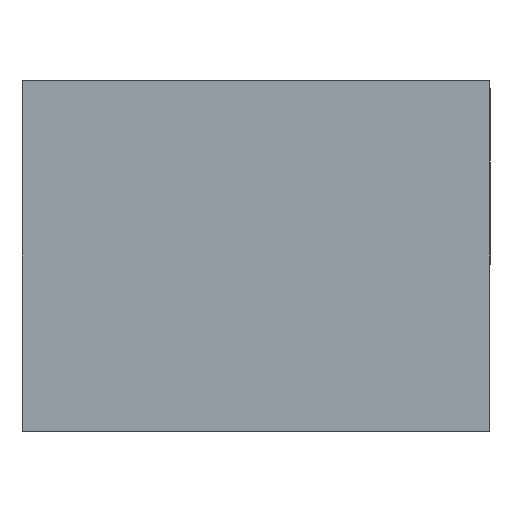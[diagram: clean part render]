
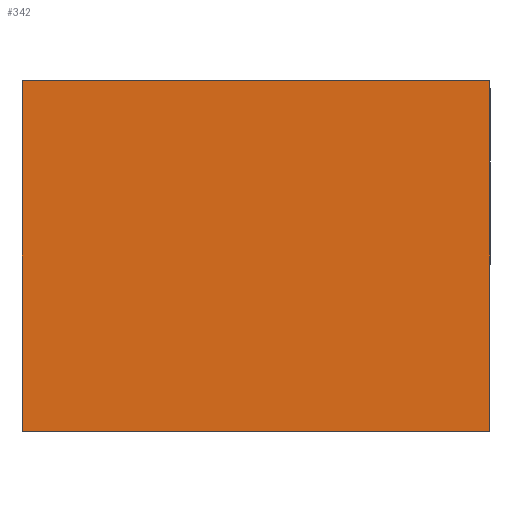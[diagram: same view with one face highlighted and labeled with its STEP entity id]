
A CAD part, front view. The second image highlights one B-rep face of the part: STEP entity #342.
In plain terms, the highlighted planar face has unit normal (0, -1, 0).
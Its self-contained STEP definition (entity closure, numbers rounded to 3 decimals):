
#34 = ORIENTED_EDGE ( 'NONE', *, *, #1111, .F. ) ;
#333 = CARTESIAN_POINT ( 'NONE',  ( -100., 0., 75. ) ) ;
#342 = ADVANCED_FACE ( 'NONE', ( #564 ), #1190, .F. ) ;
#375 = AXIS2_PLACEMENT_3D ( 'NONE', #2298, #1560, #479 ) ;
#439 = LINE ( 'NONE', #1018, #1780 ) ;
#447 = CARTESIAN_POINT ( 'NONE',  ( 100., 0., -75. ) ) ;
#479 = DIRECTION ( 'NONE',  ( 0., 0., 1. ) ) ;
#495 = EDGE_CURVE ( 'NONE', #2200, #2097, #1237, .T. ) ;
#520 = DIRECTION ( 'NONE',  ( 1., 0., 0. ) ) ;
#527 = DIRECTION ( 'NONE',  ( 0., 0., 1. ) ) ;
#564 = FACE_OUTER_BOUND ( 'NONE', #1059, .T. ) ;
#680 = ORIENTED_EDGE ( 'NONE', *, *, #1692, .F. ) ;
#698 = CARTESIAN_POINT ( 'NONE',  ( -100., 0., -75. ) ) ;
#715 = CARTESIAN_POINT ( 'NONE',  ( -100., 0., -75. ) ) ;
#765 = VECTOR ( 'NONE', #520, 1000. ) ;
#838 = ORIENTED_EDGE ( 'NONE', *, *, #495, .F. ) ;
#913 = VERTEX_POINT ( 'NONE', #447 ) ;
#921 = CARTESIAN_POINT ( 'NONE',  ( 100., 0., 75. ) ) ;
#968 = VERTEX_POINT ( 'NONE', #2293 ) ;
#983 = VECTOR ( 'NONE', #1971, 1000. ) ;
#1018 = CARTESIAN_POINT ( 'NONE',  ( 100., 0., -75. ) ) ;
#1059 = EDGE_LOOP ( 'NONE', ( #680, #838, #1881, #34 ) ) ;
#1111 = EDGE_CURVE ( 'NONE', #913, #968, #2394, .T. ) ;
#1132 = CARTESIAN_POINT ( 'NONE',  ( -100., 0., 75. ) ) ;
#1190 = PLANE ( 'NONE',  #375 ) ;
#1216 = EDGE_CURVE ( 'NONE', #968, #2200, #1341, .T. ) ;
#1237 = LINE ( 'NONE', #333, #765 ) ;
#1341 = LINE ( 'NONE', #715, #1783 ) ;
#1560 = DIRECTION ( 'NONE',  ( 0., 1., 0. ) ) ;
#1692 = EDGE_CURVE ( 'NONE', #2097, #913, #439, .T. ) ;
#1780 = VECTOR ( 'NONE', #2317, 1000. ) ;
#1783 = VECTOR ( 'NONE', #527, 1000. ) ;
#1881 = ORIENTED_EDGE ( 'NONE', *, *, #1216, .F. ) ;
#1971 = DIRECTION ( 'NONE',  ( -1., 0., 0. ) ) ;
#2097 = VERTEX_POINT ( 'NONE', #921 ) ;
#2200 = VERTEX_POINT ( 'NONE', #1132 ) ;
#2293 = CARTESIAN_POINT ( 'NONE',  ( -100., 0., -75. ) ) ;
#2298 = CARTESIAN_POINT ( 'NONE',  ( 0., 0., 0. ) ) ;
#2317 = DIRECTION ( 'NONE',  ( 0., 0., -1. ) ) ;
#2394 = LINE ( 'NONE', #698, #983 ) ;
